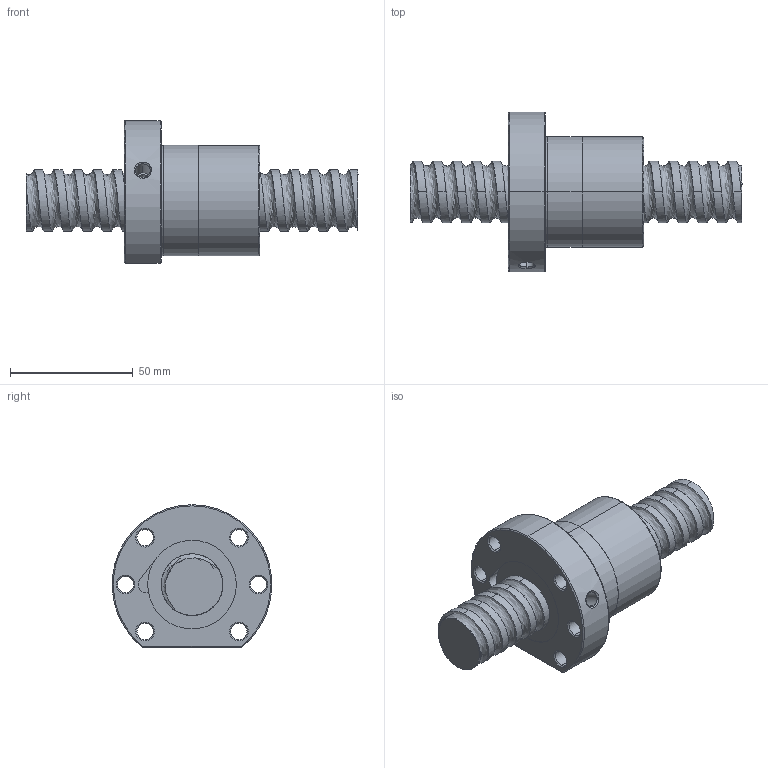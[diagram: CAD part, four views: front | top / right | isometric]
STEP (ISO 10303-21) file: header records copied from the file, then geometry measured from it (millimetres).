
FILE_DESCRIPTION (( 'STEP AP214' ), '1' );
FILE_NAME ('FSDC02508T4-D-B.STEP', '2010-06-25T11:30:55', ( 'XPAUTO' ), ( 'XPAUTO' ), 'SwSTEP 2.0', 'SolidWorks 2007', '' );
FILE_SCHEMA (( 'AUTOMOTIVE_DESIGN' ));
Length unit declared in the file: millimetre
Products named in the file (3): FSDC02508T4-D-B.sldasm-Part-2_預設; FSDC02508T4-D-B; FSDC02508T4-D-B.sldasm-Part-1_預設
Assembly tree (2 placements, depth 2):
  FSDC02508T4-D-B
    FSDC02508T4-D-B.sldasm-Part-1_預設
    FSDC02508T4-D-B.sldasm-Part-2_預設
Bounding box: 135 x 64.8 x 58 mm (x, y, z)
Volume: 137122.6 mm3; surface area: 33580.6 mm2
Topology: 2 solids, 2 shells, 125 faces, 312 edges, 196 vertices
Faces by surface type: cylinder 72, cone 24, plane 19, bspline 5, torus 5
Entity records: 25676 total; most frequent: CARTESIAN_POINT 22695, ORIENTED_EDGE 624, DIRECTION 576, EDGE_CURVE 312, AXIS2_PLACEMENT_3D 234, VERTEX_POINT 196, EDGE_LOOP 146, FACE_OUTER_BOUND 125
